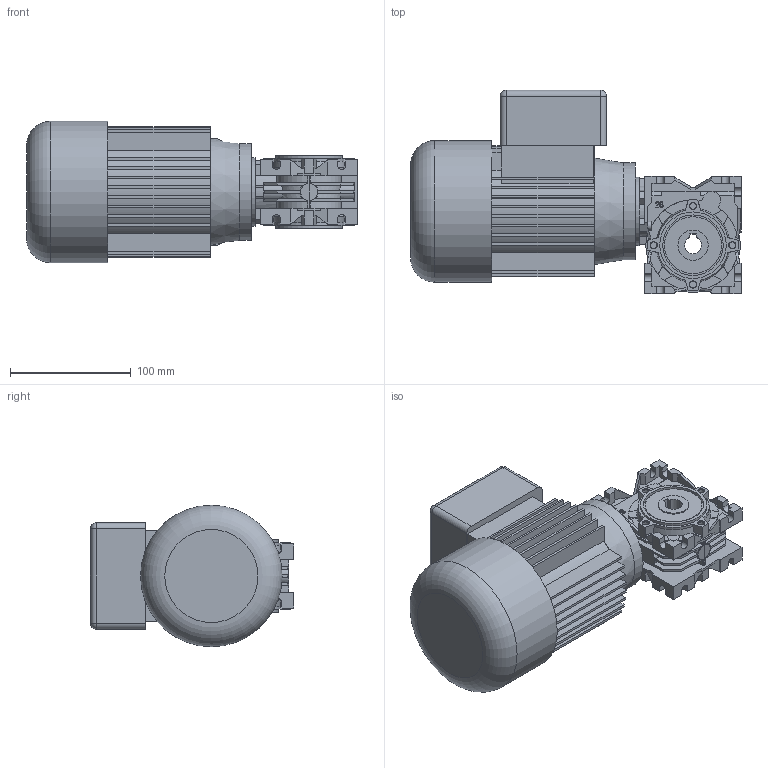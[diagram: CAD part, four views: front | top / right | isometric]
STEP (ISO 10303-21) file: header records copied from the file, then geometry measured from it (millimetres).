
FILE_DESCRIPTION( ( 'Unknown' ), '1' );
FILE_NAME( 'E:/services/configuratordownloads/customers/VARVEL/RT/download/CEF5C09BE4205132FB12A0E7C3624F/STEP/CEF5C09BE4205132FB12A0E7C3624F.3d.stp', 'Unknown', ( 'Unknown' ), ( 'Unknown' ), 'PSStep 10.1', 'Unknown', ' ' );
FILE_SCHEMA( ( 'AUTOMOTIVE_DESIGN { 1 0 10303 214 1 1 1 1 }' ) );
Length unit declared in the file: millimetre
Products named in the file (1): 530101
Bounding box: 273.5 x 168 x 117 mm (x, y, z)
Volume: 2171021.2 mm3; surface area: 216561.9 mm2
Topology: 1 solids, 3 shells, 853 faces, 2374 edges, 1573 vertices
Faces by surface type: plane 628, cylinder 187, cone 18, torus 10, bspline 4, sphere 4, revolution 2
Full cylindrical faces by diameter (mm): 4.2 x8, 6 x16, 9 x1, 12 x1, 13 x1, 14 x1, 25 x2, 30 x2, 32 x1, 37 x2, 43.5 x1, 47.1 x2, 50 x3, 55 x2, 56.5 x1, 80 x1, 117 x1
Entity records: 33743 total; most frequent: CARTESIAN_POINT 5379, ORIENTED_EDGE 4514, DIRECTION 4301, EDGE_CURVE 2257, LINE 1731, VECTOR 1731, VERTEX_POINT 1526, AXIS2_PLACEMENT_3D 1284
